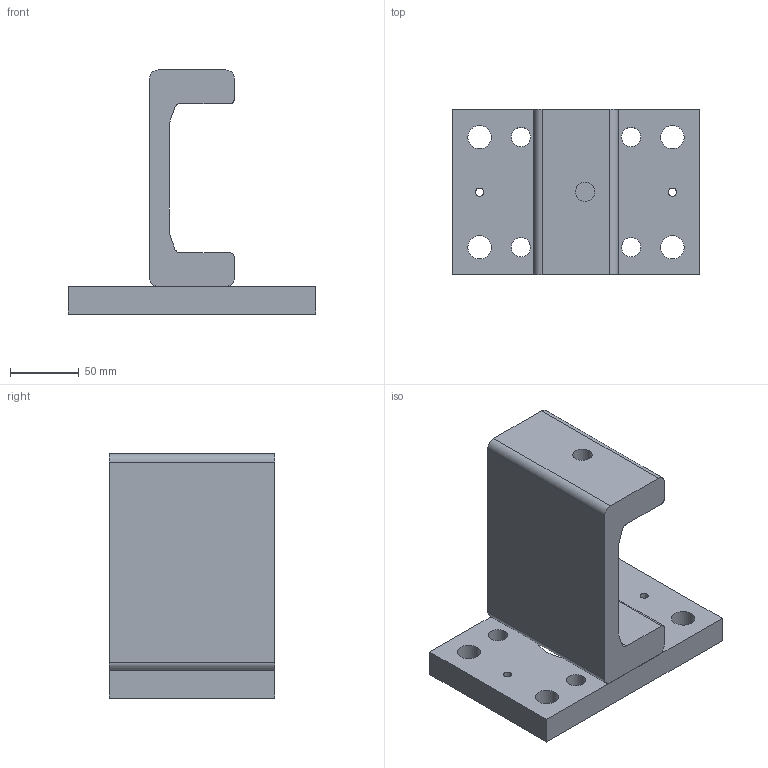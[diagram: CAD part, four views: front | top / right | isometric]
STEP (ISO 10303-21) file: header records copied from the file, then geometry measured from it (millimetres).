
FILE_DESCRIPTION(/* description */ (''),/* implementation_level */ '2;1');
FILE_NAME(/* name */ '5.6267 SP.step',/* time_stamp */ '2023-05-29T09:03:24+02:00',/* author */ (''),/* organization */ (''),/* preprocessor_version */ 'ST-DEVELOPER v19.2',/* originating_system */ 'Autodesk Translation Framework v12.4.0.73',/* authorisation */ '');
FILE_SCHEMA (('AUTOMOTIVE_DESIGN { 1 0 10303 214 3 1 1 }'));
Length unit declared in the file: millimetre
Products named in the file (2): 5.6267/SP; 2862x120
Assembly tree (1 placements, depth 2):
  5.6267/SP
    2862x120
Bounding box: 180 x 120 x 177.2 mm (x, y, z)
Volume: 885943.9 mm3; surface area: 129528.5 mm2
Topology: 2 solids, 2 shells, 38 faces, 102 edges, 68 vertices
Faces by surface type: cylinder 20, plane 18
Full cylindrical faces by diameter (mm): 6 x2, 14.023 x5, 17 x4, 60 x1
Entity records: 1308 total; most frequent: DIRECTION 224, CARTESIAN_POINT 211, ORIENTED_EDGE 204, EDGE_CURVE 102, AXIS2_PLACEMENT_3D 81, VERTEX_POINT 68, EDGE_LOOP 62, LINE 62
